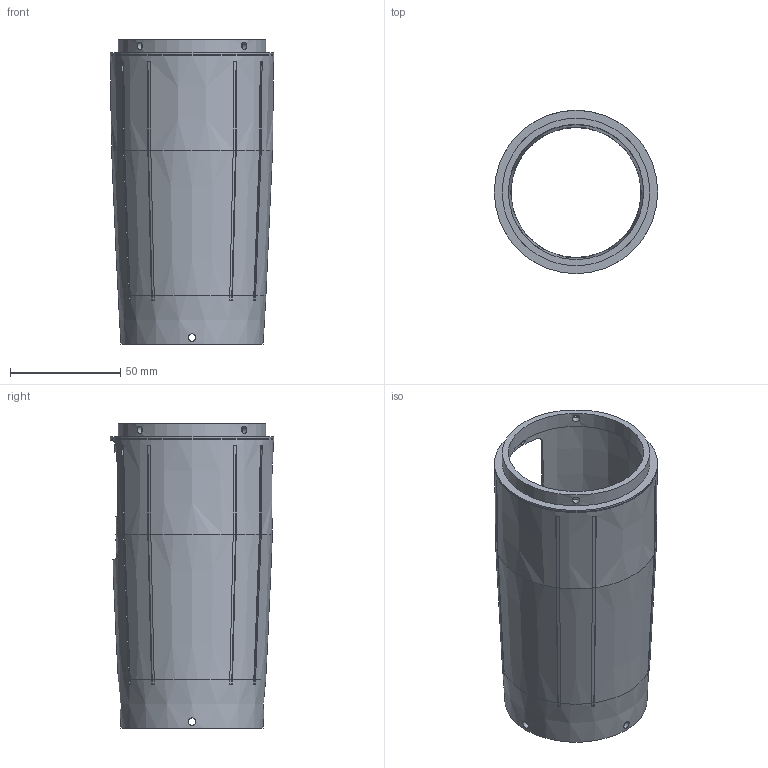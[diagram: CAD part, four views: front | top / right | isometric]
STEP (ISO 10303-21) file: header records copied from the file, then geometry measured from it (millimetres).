
FILE_DESCRIPTION(('FreeCAD Model'),'2;1');
FILE_NAME('Open CASCADE Shape Model','2026-09-19T17:18:18',('FreeCAD'),( 'FreeCAD'),'Open CASCADE STEP processor 7.8','FreeCAD','Unknown');
FILE_SCHEMA(('AUTOMOTIVE_DESIGN { 1 0 10303 214 1 1 1 1 }'));
Length unit declared in the file: millimetre
Products named in the file (1): Open CASCADE STEP translator 7.8 1
Bounding box: 74 x 74 x 138 mm (x, y, z)
Volume: 78324.7 mm3; surface area: 61306.1 mm2
Topology: 1 solids, 1 shells, 107 faces, 305 edges, 201 vertices
Faces by surface type: plane 45, cone 41, cylinder 21
Full cylindrical faces by diameter (mm): 3.2 x2, 3.4 x8, 61.3 x1, 66.9 x1, 73.982 x1
Entity records: 5877 total; most frequent: CARTESIAN_POINT 3063, ORIENTED_EDGE 610, DIRECTION 551, EDGE_CURVE 305, AXIS2_PLACEMENT_3D 201, VERTEX_POINT 201, LINE 149, VECTOR 149
